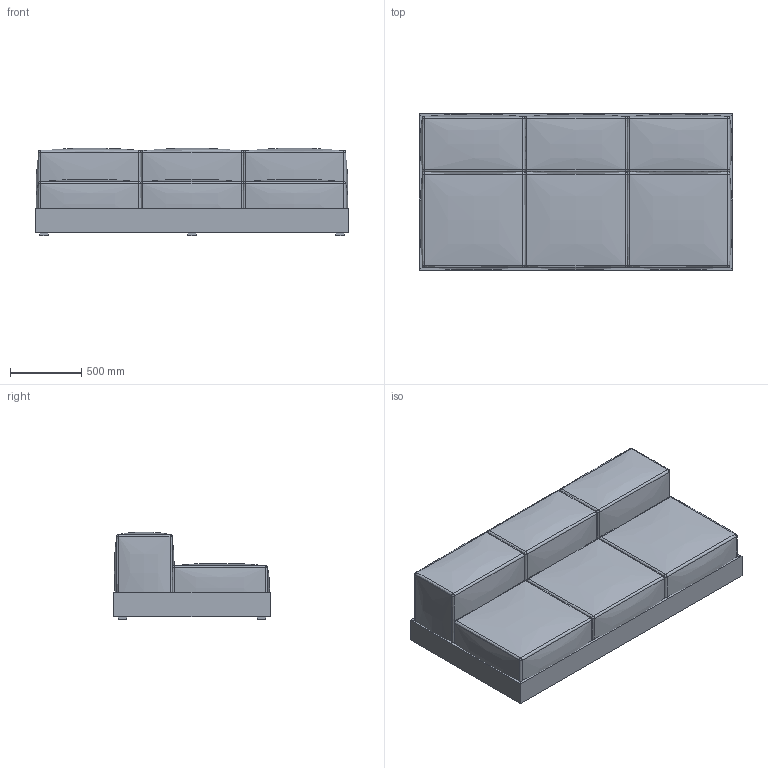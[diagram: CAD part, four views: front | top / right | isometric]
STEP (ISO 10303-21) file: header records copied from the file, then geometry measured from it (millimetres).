
FILE_DESCRIPTION(/* description */ (''),/* implementation_level */ '2;1');
FILE_NAME(/* name */ 'Polp1 220 nob.step',/* time_stamp */ '2024-01-07T10:37:20+01:00',/* author */ (''),/* organization */ (''),/* preprocessor_version */ 'ST-DEVELOPER v20',/* originating_system */ 'Autodesk Translation Framework v12.14.0.127',/* authorisation */ '');
FILE_SCHEMA (('AUTOMOTIVE_DESIGN { 1 0 10303 214 3 1 1 }'));
Length unit declared in the file: millimetre
Products named in the file (7): Polp1 220 nob; Component1; Component2; Component3; Component5; Component6; Component7
Assembly tree (6 placements, depth 2):
  Polp1 220 nob
    Component1
    Component2
    Component3
    Component5
    Component6
    Component7
Bounding box: 2200 x 1100 x 615 mm (x, y, z)
Volume: 1033840876.6 mm3; surface area: 18279008.4 mm2
Topology: 22 solids, 22 shells, 252 faces, 480 edges, 272 vertices
Faces by surface type: plane 113, bspline 76, sphere 48, cylinder 15
Entity records: 14734 total; most frequent: CARTESIAN_POINT 9852, ORIENTED_EDGE 960, DIRECTION 888, EDGE_CURVE 480, AXIS2_PLACEMENT_3D 333, VERTEX_POINT 272, FACE_OUTER_BOUND 252, EDGE_LOOP 252
